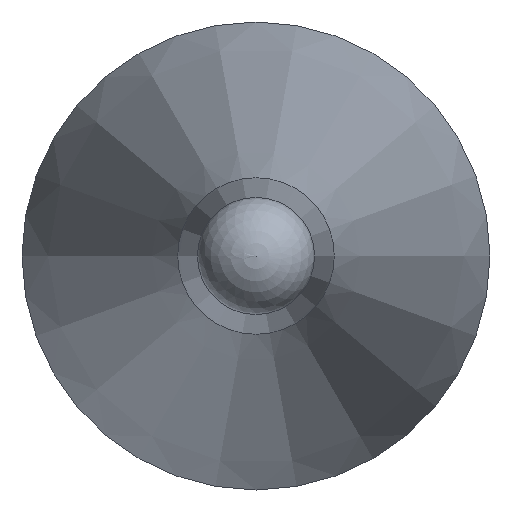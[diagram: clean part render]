
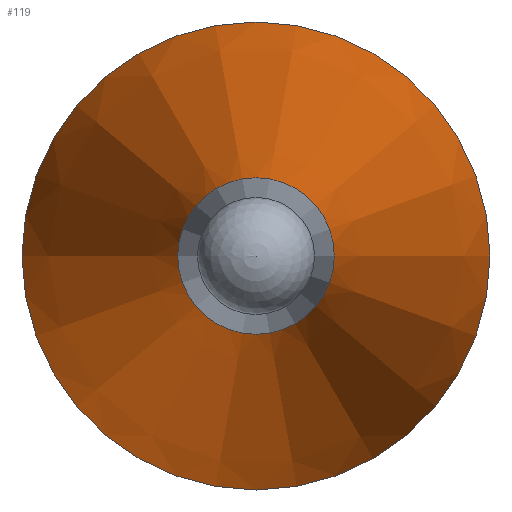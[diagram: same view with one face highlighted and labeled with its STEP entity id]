
A CAD part, left-side view. The second image highlights one B-rep face of the part: STEP entity #119.
In plain terms, the highlighted conical face has half-angle 12 degrees and reference radius 3 mm.
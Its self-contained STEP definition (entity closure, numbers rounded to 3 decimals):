
#97=CONICAL_SURFACE('',#194,3.,12.);
#106=FACE_BOUND('',#134,.T.);
#107=FACE_BOUND('',#135,.T.);
#119=ADVANCED_FACE('',(#106,#107),#97,.T.);
#134=EDGE_LOOP('',(#150));
#135=EDGE_LOOP('',(#151));
#150=ORIENTED_EDGE('',*,*,#172,.F.);
#151=ORIENTED_EDGE('',*,*,#173,.T.);
#164=VERTEX_POINT('',#249);
#165=VERTEX_POINT('',#252);
#172=EDGE_CURVE('',#164,#164,#180,.T.);
#173=EDGE_CURVE('',#165,#165,#181,.T.);
#180=CIRCLE('',#191,1.003);
#181=CIRCLE('',#193,3.);
#191=AXIS2_PLACEMENT_3D('',#248,#215,#216);
#193=AXIS2_PLACEMENT_3D('',#251,#219,#220);
#194=AXIS2_PLACEMENT_3D('',#253,#221,#222);
#215=DIRECTION('',(-1.,0.,0.));
#216=DIRECTION('',(0.,-1.,0.));
#219=DIRECTION('',(-1.,0.,0.));
#220=DIRECTION('',(0.,-1.,0.));
#221=DIRECTION('',(1.,0.,0.));
#222=DIRECTION('',(0.,1.,0.));
#248=CARTESIAN_POINT('',(7913.912,6103.288,0.));
#249=CARTESIAN_POINT('',(7913.912,6102.285,0.));
#251=CARTESIAN_POINT('',(7923.307,6103.288,0.));
#252=CARTESIAN_POINT('',(7923.307,6100.288,0.));
#253=CARTESIAN_POINT('',(7923.307,6103.288,0.));
